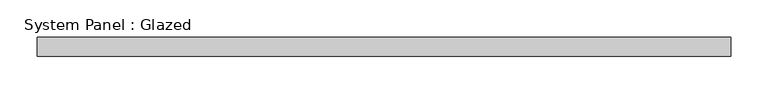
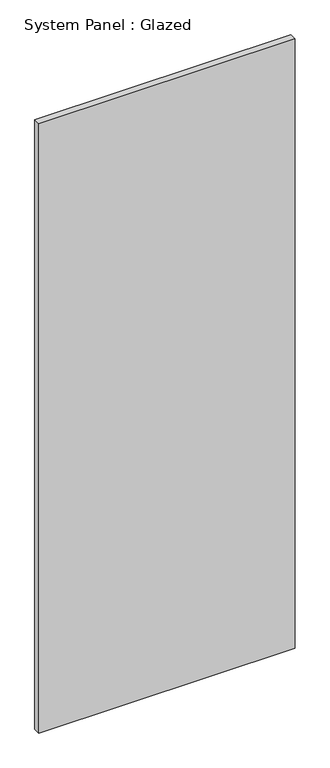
"""IFC4 building model written with IfcOpenShell, lengths in millimetres: plate geometry, System Panel : Glazed."""

from ifc_helpers import new_model, si_unit, origin, origin_with_axes, place, context, project, spatial, polyline, outline, extrude, source, transform, mapped, element, save


def system_panel_glazed_70154507(model_context):
    return source(origin(), model_context, "Body", "SweptSolid", [
        extrude(outline(polyline([(462.5, 24.5), (-462.5, 24.5), (-462.5, 49.5), (462.5, 49.5), (462.5, 24.5)])), origin_with_axes(), (0.0, 0.0, 1.0), 2325.0),
    ])


if __name__ == "__main__":
    model = new_model("IFC4")
    model_context = context("Model", 3, world=origin())
    ifc_project = project(units=[si_unit("LENGTHUNIT", "METRE", prefix="MILLI")], contexts=[model_context])
    site = spatial("IfcSite", under=ifc_project)
    building = spatial("IfcBuilding", under=site)
    placement = place(None, origin())
    system_panel_glazed_shape = system_panel_glazed_70154507(model_context)
    element("IfcPlate", 1, ObjectType="System Panel : Glazed", at=placement, inside=building, context=model_context, shape_type="MappedRepresentation", body=[
        mapped(system_panel_glazed_shape, transform((0.0, 0.0, 0.0), x_axis=(1.0, 0.0, 0.0), y_axis=(0.0, 1.0, 0.0), z_axis=(0.0, 0.0, 1.0))),
    ])
    save(model, "model.ifc")
